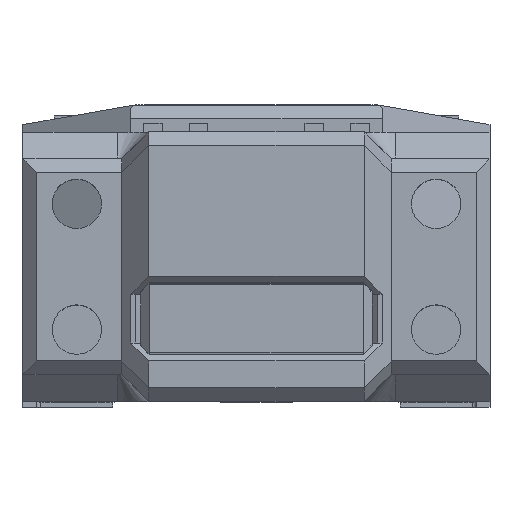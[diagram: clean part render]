
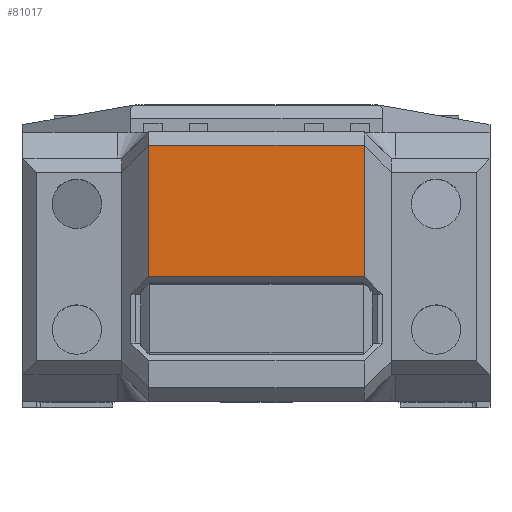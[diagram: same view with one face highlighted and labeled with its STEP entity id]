
A CAD part, top view. The second image highlights one B-rep face of the part: STEP entity #81017.
In plain terms, the highlighted planar face has unit normal (0, 0, 1).
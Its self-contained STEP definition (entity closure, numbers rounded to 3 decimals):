
#27239=DIRECTION('',(0.,-1.,0.));
#27240=VECTOR('',#27239,14.6);
#27241=CARTESIAN_POINT('',(12.,13.5,7.));
#27242=LINE('',#27241,#27240);
#27246=DIRECTION('',(-1.,0.,0.));
#27247=VECTOR('',#27246,24.);
#27248=CARTESIAN_POINT('',(12.,-1.1,7.));
#27249=LINE('',#27248,#27247);
#27253=DIRECTION('',(0.,-1.,0.));
#27254=VECTOR('',#27253,14.6);
#27255=CARTESIAN_POINT('',(-12.,13.5,7.));
#27256=LINE('',#27255,#27254);
#27267=DIRECTION('',(-1.,0.,0.));
#27268=VECTOR('',#27267,24.);
#27269=CARTESIAN_POINT('',(12.,13.5,7.));
#27270=LINE('',#27269,#27268);
#49784=CARTESIAN_POINT('',(12.,-1.1,7.));
#49785=CARTESIAN_POINT('',(-12.,-1.1,7.));
#49786=VERTEX_POINT('',#49784);
#49787=VERTEX_POINT('',#49785);
#50141=CARTESIAN_POINT('',(12.,13.5,7.));
#50143=VERTEX_POINT('',#50141);
#50148=CARTESIAN_POINT('',(-12.,13.5,7.));
#50149=VERTEX_POINT('',#50148);
#81005=CARTESIAN_POINT('',(0.,0.,7.));
#81006=DIRECTION('',(0.,0.,1.));
#81007=DIRECTION('',(-1.,0.,0.));
#81008=AXIS2_PLACEMENT_3D('',#81005,#81006,#81007);
#81009=PLANE('',#81008);
#81011=ORIENTED_EDGE('',*,*,#81010,.F.);
#81012=ORIENTED_EDGE('',*,*,#67408,.T.);
#81013=ORIENTED_EDGE('',*,*,#66014,.T.);
#81014=ORIENTED_EDGE('',*,*,#63632,.F.);
#81015=EDGE_LOOP('',(#81011,#81012,#81013,#81014));
#81016=FACE_OUTER_BOUND('',#81015,.F.);
#63632=EDGE_CURVE('',#50149,#49787,#27256,.T.);
#66014=EDGE_CURVE('',#49786,#49787,#27249,.T.);
#67408=EDGE_CURVE('',#50143,#49786,#27242,.T.);
#81010=EDGE_CURVE('',#50143,#50149,#27270,.T.);
#81017=ADVANCED_FACE('',(#81016),#81009,.T.);
